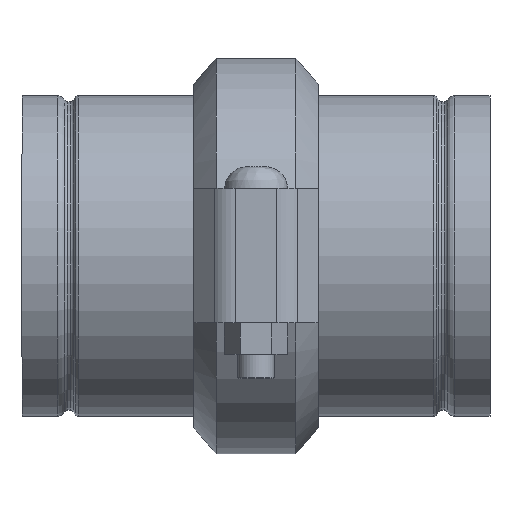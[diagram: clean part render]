
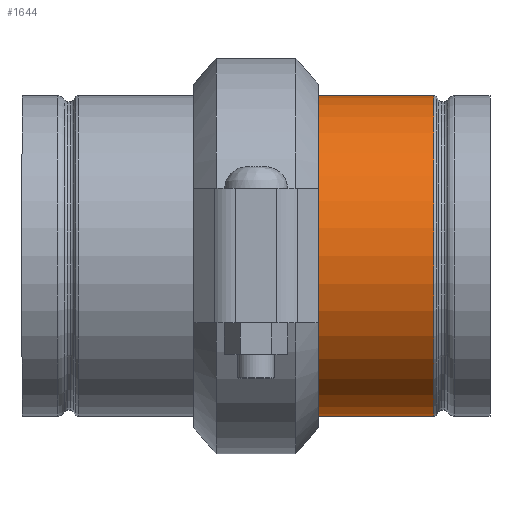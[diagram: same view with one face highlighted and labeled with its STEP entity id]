
A CAD part, top view. The second image highlights one B-rep face of the part: STEP entity #1644.
In plain terms, the highlighted cylindrical face has radius 69.85 mm (diameter 139.7 mm), a full revolution.
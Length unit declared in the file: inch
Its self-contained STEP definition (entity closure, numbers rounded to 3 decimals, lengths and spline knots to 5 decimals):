
#51=LINE('',#2687,#142);
#142=VECTOR('',#2160,2.75);
#233=CYLINDRICAL_SURFACE('',#1854,2.75);
#325=FACE_OUTER_BOUND('',#416,.T.);
#416=EDGE_LOOP('',(#1144,#1145,#1146,#1147,#1148,#1149,#1150,#1151));
#547=CIRCLE('',#1850,2.75);
#548=CIRCLE('',#1851,2.75);
#550=CIRCLE('',#1853,2.75);
#551=CIRCLE('',#1855,2.75);
#552=CIRCLE('',#1856,2.75);
#553=CIRCLE('',#1857,2.75);
#680=VERTEX_POINT('',#2674);
#681=VERTEX_POINT('',#2675);
#682=VERTEX_POINT('',#2677);
#683=VERTEX_POINT('',#2682);
#684=VERTEX_POINT('',#2683);
#685=VERTEX_POINT('',#2685);
#859=EDGE_CURVE('',#680,#681,#547,.T.);
#860=EDGE_CURVE('',#681,#682,#548,.T.);
#862=EDGE_CURVE('',#682,#680,#550,.T.);
#863=EDGE_CURVE('',#683,#684,#551,.T.);
#864=EDGE_CURVE('',#685,#683,#552,.T.);
#865=EDGE_CURVE('',#685,#681,#51,.T.);
#866=EDGE_CURVE('',#684,#685,#553,.T.);
#1144=ORIENTED_EDGE('',*,*,#863,.F.);
#1145=ORIENTED_EDGE('',*,*,#864,.F.);
#1146=ORIENTED_EDGE('',*,*,#865,.T.);
#1147=ORIENTED_EDGE('',*,*,#859,.F.);
#1148=ORIENTED_EDGE('',*,*,#862,.F.);
#1149=ORIENTED_EDGE('',*,*,#860,.F.);
#1150=ORIENTED_EDGE('',*,*,#865,.F.);
#1151=ORIENTED_EDGE('',*,*,#866,.F.);
#1644=ADVANCED_FACE('',(#325),#233,.T.);
#1850=AXIS2_PLACEMENT_3D('',#2676,#2146,#2147);
#1851=AXIS2_PLACEMENT_3D('',#2678,#2148,#2149);
#1853=AXIS2_PLACEMENT_3D('',#2680,#2152,#2153);
#1854=AXIS2_PLACEMENT_3D('',#2681,#2154,#2155);
#1855=AXIS2_PLACEMENT_3D('',#2684,#2156,#2157);
#1856=AXIS2_PLACEMENT_3D('',#2686,#2158,#2159);
#1857=AXIS2_PLACEMENT_3D('',#2688,#2161,#2162);
#2146=DIRECTION('center_axis',(-1.,0.,0.));
#2147=DIRECTION('ref_axis',(0.,-1.,0.));
#2148=DIRECTION('center_axis',(-1.,0.,0.));
#2149=DIRECTION('ref_axis',(0.,-1.,0.));
#2152=DIRECTION('center_axis',(-1.,0.,0.));
#2153=DIRECTION('ref_axis',(0.,-1.,0.));
#2154=DIRECTION('center_axis',(1.,0.,0.));
#2155=DIRECTION('ref_axis',(0.,1.,0.));
#2156=DIRECTION('center_axis',(1.,0.,0.));
#2157=DIRECTION('ref_axis',(0.,-1.,0.));
#2158=DIRECTION('center_axis',(1.,0.,0.));
#2159=DIRECTION('ref_axis',(0.,-1.,0.));
#2160=DIRECTION('',(-1.,0.,0.));
#2161=DIRECTION('center_axis',(1.,0.,0.));
#2162=DIRECTION('ref_axis',(0.,-1.,0.));
#2674=CARTESIAN_POINT('',(0.999,2.75,0.));
#2675=CARTESIAN_POINT('',(0.999,-2.75,0.));
#2676=CARTESIAN_POINT('Origin',(0.999,0.,0.));
#2677=CARTESIAN_POINT('',(0.999,0.,2.75));
#2678=CARTESIAN_POINT('Origin',(0.999,0.,0.));
#2680=CARTESIAN_POINT('Origin',(0.999,0.,0.));
#2681=CARTESIAN_POINT('Origin',(2.01879,0.,0.));
#2682=CARTESIAN_POINT('',(3.03734,2.75,0.));
#2683=CARTESIAN_POINT('',(3.03734,0.,2.75));
#2684=CARTESIAN_POINT('Origin',(3.03734,0.,0.));
#2685=CARTESIAN_POINT('',(3.03734,-2.75,0.));
#2686=CARTESIAN_POINT('Origin',(3.03734,0.,0.));
#2687=CARTESIAN_POINT('',(2.01879,-2.75,0.));
#2688=CARTESIAN_POINT('Origin',(3.03734,0.,0.));
